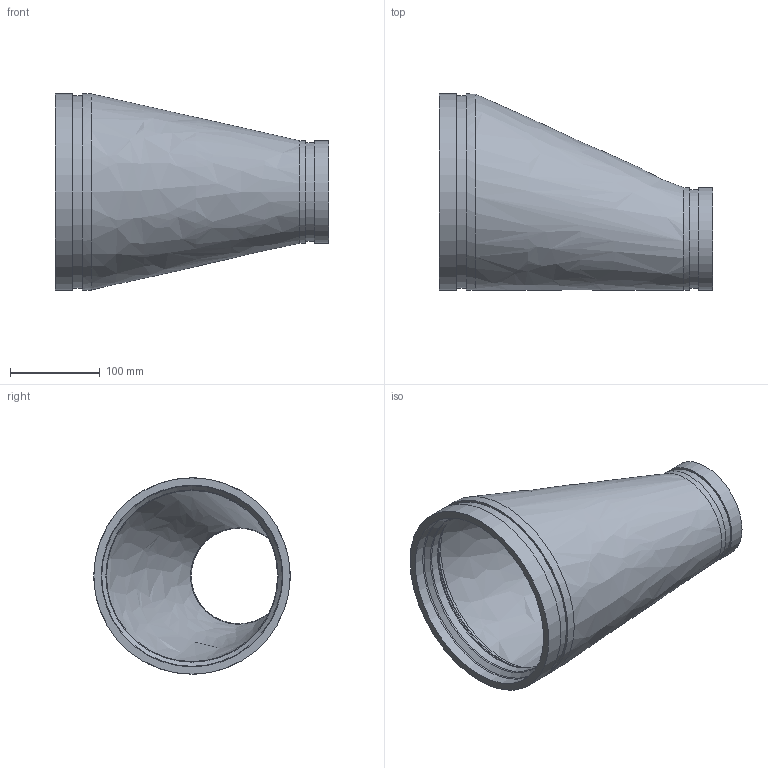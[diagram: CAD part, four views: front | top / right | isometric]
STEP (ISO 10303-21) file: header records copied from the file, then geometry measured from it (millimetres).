
FILE_DESCRIPTION(/* description */ ('VIC REDUCER ECCENTRIC No 451H-SS','CAx-IF Rec.Pracs.---Representation and Presentation of Product Manufacturing Information (PMI)---4.0---2014-10-13'),/* implementation_level */ '2;1');
FILE_NAME(/* name */ 'C:\Users\kkamble\AppData\Roaming\Autodesk\ApplicationPlugins\Back Up\Victaulic_SS-OGS_Reducer Eccentric_Sched 40S_No 451H SS (OGS)\Victaulic_SS-OGS_Reducer Eccentric_Sched 40S_No 451H SS (OGS)_08.0x04.0 (200x100).stp',/* time_stamp */ '2020-08-25T18:06:03+06:00',/* author */ ('CORINNE GRAY'),/* organization */ ('Victaulic'),/* preprocessor_version */ 'ST-DEVELOPER v17.2',/* originating_system */ 'Autodesk Inventor 2019',/* authorisation */ '');
FILE_SCHEMA (('AP242_MANAGED_MODEL_BASED_3D_ENGINEERING_MIM_LF { 1 0 10303 442 1 1 4 }'));
Length unit declared in the file: inch
Products named in the file (1): 451H SS-08.0x04.0
Bounding box: 304.8 x 219.07 x 219.07 mm (x, y, z)
Volume: 988676.3 mm3; surface area: 331950.1 mm2
Topology: 1 solids, 1 shells, 32 faces, 111 edges, 85 vertices
Faces by surface type: cylinder 12, torus 8, plane 6, cone 4, bspline 2
Full cylindrical faces by diameter (mm): 106.324 x1, 108.204 x2, 110.084 x1, 114.3 x2, 190.983 x1, 202.692 x2, 214.401 x1, 219.075 x2
Entity records: 1504 total; most frequent: DIRECTION 290, CARTESIAN_POINT 282, ORIENTED_EDGE 222, AXIS2_PLACEMENT_3D 137, EDGE_CURVE 111, CIRCLE 93, VERTEX_POINT 85, EDGE_LOOP 38
